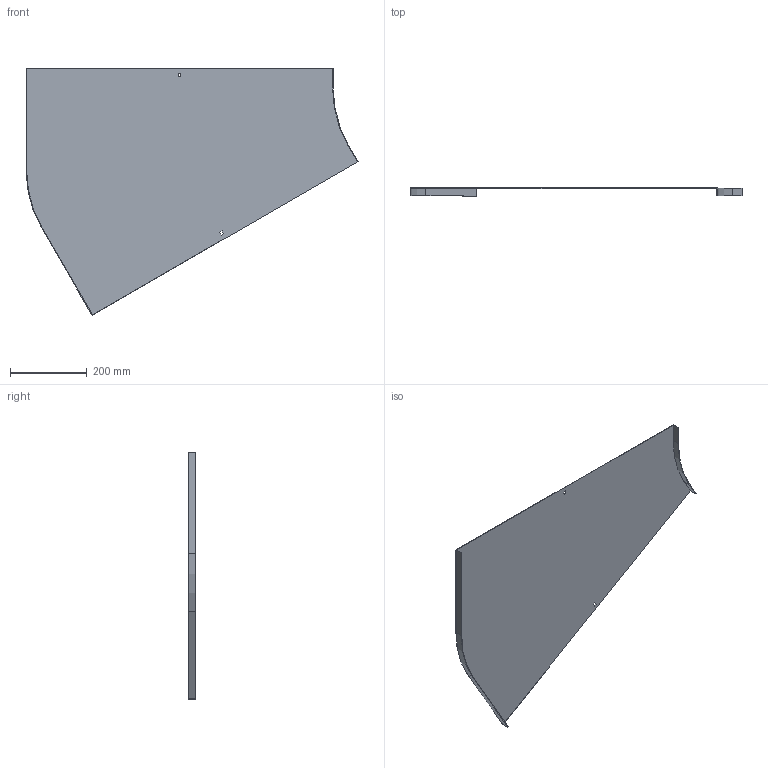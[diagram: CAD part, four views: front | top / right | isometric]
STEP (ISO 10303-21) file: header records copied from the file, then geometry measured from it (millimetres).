
FILE_DESCRIPTION (( 'STEP AP214' ), '1' );
FILE_NAME ('B2_12N3R800.step', '2025-02-21T10:49:43', ( '' ), ( '' ), 'SwSTEP 2.0', 'SolidWorks 2023', '' );
FILE_SCHEMA (( 'AUTOMOTIVE_DESIGN' ));
Length unit declared in the file: millimetre
Products named in the file (1): B2_12N3R800
Bounding box: 867.99 x 20 x 644.05 mm (x, y, z)
Volume: 598265.5 mm3; surface area: 801714.6 mm2
Topology: 1 solids, 1 shells, 26 faces, 72 edges, 48 vertices
Faces by surface type: plane 22, cylinder 4
Entity records: 855 total; most frequent: CARTESIAN_POINT 147, ORIENTED_EDGE 144, DIRECTION 134, EDGE_CURVE 72, VECTOR 64, LINE 64, VERTEX_POINT 48, AXIS2_PLACEMENT_3D 35
